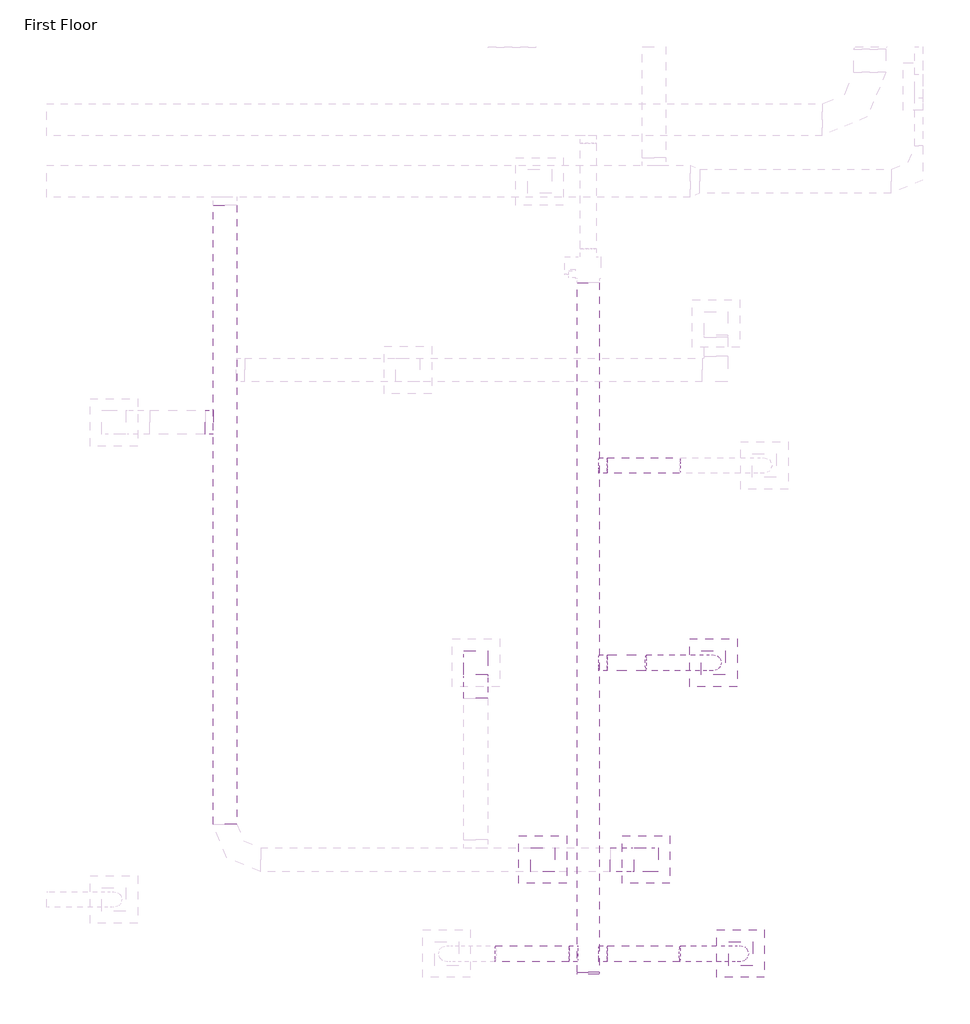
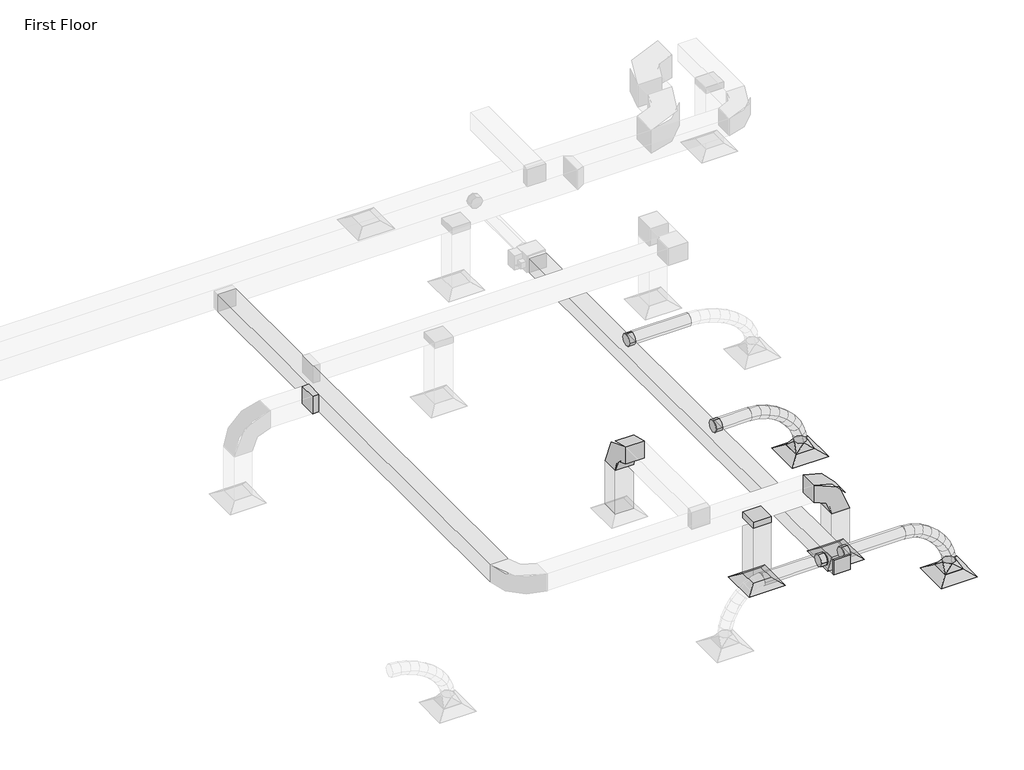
# One storey, part 16 of 61: 11 duct fittings, 11 duct segments, 4 air terminals.
"""IFC4 building model written with IfcOpenShell, lengths in millimetres."""

from ifc_helpers import new_model, si_unit, point, frame, frame_2d, origin, place, context, project, spatial, polyline, circle_curve, ellipse_curve, trimmed, segment, composite_curve, outline, extrude, transform, mapped, element, save
from ifc_brep_helpers import plane_surface, cylinder_surface, advanced_brep
from components import m_exhaust_grill_er_600_x_600_face_300_x_300_connection_ff221211, m_rectangular_elbow_radius_1_5_w_86011e9f, m_rectangular_endcap_standard_7316ac99, m_rectangular_takeoff_standard_c00386d1, m_rectangular_to_round_transition_angle_45_degree_60daae35, m_round_takeoff_standard_8efdd074, m_round_takeoff_standard_45336e8a

model = new_model("IFC4")

# Units and contexts
model_context = context("Model", 3, world=origin())
ifc_project = project(units=[si_unit("LENGTHUNIT", "METRE", prefix="MILLI")], contexts=[model_context])

# Site, building, storey
site = spatial("IfcSite", under=ifc_project)
building = spatial("IfcBuilding", under=site)
storey = spatial("IfcBuildingStorey", under=building, Name="First Floor", Elevation=0.0)

# Air terminals
placement = place(None, origin())
m_exhaust_grill_er_600_x_600_face_300_x_300_connection_shape = m_exhaust_grill_er_600_x_600_face_300_x_300_connection_ff221211(model_context)
element("IfcAirTerminal", 1, ObjectType="M_Return Register : RR-600 x 600 Face 300 x 300 Connection", at=placement, inside=storey, context=model_context, shape_type="MappedRepresentation", body=[
    mapped(m_exhaust_grill_er_600_x_600_face_300_x_300_connection_shape, transform((-23661.4451423, 2220.0547709, 2680.0), x_axis=(1.0, 0.0, 0.0), y_axis=(0.0, 1.0, 0.0), z_axis=(0.0, 0.0, 1.0))),
])
element("IfcAirTerminal", 2, ObjectType="M_Return Register : RR-600 x 600 Face 300 x 300 Connection", at=placement, inside=storey, context=model_context, shape_type="MappedRepresentation", body=[
    mapped(m_exhaust_grill_er_600_x_600_face_300_x_300_connection_shape, transform((-22357.0981327, 2220.0547709, 2680.0), x_axis=(1.0, 0.0, 0.0), y_axis=(0.0, 1.0, 0.0), z_axis=(0.0, 0.0, 1.0))),
])
element("IfcAirTerminal", 3, ObjectType="M_Supply Diffuser : SD-600 x 600 Face 300 x 300 Connection", at=placement, inside=storey, context=model_context, shape_type="MappedRepresentation", body=[
    mapped(m_exhaust_grill_er_600_x_600_face_300_x_300_connection_shape, transform((-21165.0544655, 1034.7343051, 2680.0), x_axis=(1.0, 0.0, 0.0), y_axis=(0.0, 1.0, 0.0), z_axis=(0.0, 0.0, 1.0))),
])
element("IfcAirTerminal", 4, ObjectType="M_Supply Diffuser : SD-600 x 600 Face 300 x 300 Connection", at=placement, inside=storey, context=model_context, shape_type="MappedRepresentation", body=[
    mapped(m_exhaust_grill_er_600_x_600_face_300_x_300_connection_shape, transform((-21510.3227916, 4704.8087341, 2680.0), x_axis=(1.0, 0.0, 0.0), y_axis=(0.0, 1.0, 0.0), z_axis=(0.0, 0.0, 1.0))),
])

# Duct fittings
m_rectangular_elbow_radius_1_5_w_shape = m_rectangular_elbow_radius_1_5_w_86011e9f(model_context)
element("IfcDuctFitting", 5, ObjectType="M_Rectangular Elbow - Radius : 1.5 W", at=placement, inside=storey, context=model_context, shape_type="MappedRepresentation", body=[
    mapped(m_rectangular_elbow_radius_1_5_w_shape, transform((-22357.0981327, 2220.0547709, 4000.0), x_axis=(0.0, 0.0, 1.0), y_axis=(-1.0, 0.0, 0.0), z_axis=(0.0, -1.0, 0.0))),
])
element("IfcDuctFitting", 6, ObjectType="M_Rectangular Elbow - Radius : 1.5 W", at=placement, inside=storey, context=model_context, shape_type="MappedRepresentation", body=[
    mapped(m_rectangular_elbow_radius_1_5_w_shape, transform((-24505.4343838, 4704.8087341, 4000.0), x_axis=(0.0, 0.0, 1.0), y_axis=(0.0, -1.0, 0.0), z_axis=(1.0, 0.0, 0.0))),
])
m_rectangular_endcap_standard_shape = m_rectangular_endcap_standard_7316ac99(model_context)
element("IfcDuctFitting", 7, ObjectType="M_Rectangular Endcap : Standard", at=placement, inside=storey, context=model_context, shape_type="MappedRepresentation", body=[
    mapped(m_rectangular_endcap_standard_shape, transform((-23088.1633517, 798.8813015, 3644.1), x_axis=(0.0, -1.0, 0.0), y_axis=(1.0, 0.0, 0.0), z_axis=(0.0, 0.0, 1.0))),
])
m_rectangular_takeoff_standard_shape = m_rectangular_takeoff_standard_c00386d1(model_context)
element("IfcDuctFitting", 8, ObjectType="M_Rectangular Takeoff : Standard", at=placement, inside=storey, context=model_context, shape_type="MappedRepresentation", body=[
    mapped(m_rectangular_takeoff_standard_shape, transform((-23661.4451423, 2220.0547709, 3850.0), x_axis=(0.0, 0.0, -1.0), y_axis=(0.0, 1.0, 0.0), z_axis=(1.0, 0.0, 0.0))),
])
element("IfcDuctFitting", 9, ObjectType="M_Rectangular Takeoff : Standard", at=placement, inside=storey, context=model_context, shape_type="MappedRepresentation", body=[
    mapped(m_rectangular_takeoff_standard_shape, transform((-27821.2581409, 7737.2789856, 4000.0), x_axis=(-1.0, 0.0, 0.0), y_axis=(0.0, 1.0, 0.0), z_axis=(0.0, 0.0, -1.0))),
])
m_rectangular_to_round_transition_angle_45_degree_shape = m_rectangular_to_round_transition_angle_45_degree_60daae35(model_context)
element("IfcDuctFitting", 10, ObjectType="M_Rectangular to Round Transition - Angle : 45 Degree", at=placement, inside=storey, context=model_context, shape_type="MappedRepresentation", body=[
    mapped(m_rectangular_to_round_transition_angle_45_degree_shape, transform((-21165.0544655, 1034.7343051, 2781.6), x_axis=(0.0, 0.0, 1.0), y_axis=(1.0, 0.0, 0.0), z_axis=(0.0, 1.0, 0.0))),
])
element("IfcDuctFitting", 11, ObjectType="M_Rectangular to Round Transition - Angle : 45 Degree", at=placement, inside=storey, context=model_context, shape_type="MappedRepresentation", body=[
    mapped(m_rectangular_to_round_transition_angle_45_degree_shape, transform((-21510.3227916, 4704.8087341, 2781.6), x_axis=(0.0, 0.0, 1.0), y_axis=(1.0, 0.0, 0.0), z_axis=(0.0, 1.0, 0.0))),
])
m_round_takeoff_standard_shape = m_round_takeoff_standard_8efdd074(model_context)
element("IfcDuctFitting", 12, ObjectType="M_Round Takeoff : Standard", at=placement, inside=storey, context=model_context, shape_type="MappedRepresentation", body=[
    mapped(m_round_takeoff_standard_shape, transform((-23225.6633517, 1034.7343051, 3644.1), x_axis=(-1.0, 0.0, 0.0), y_axis=(0.0, 1.0, 0.0), z_axis=(0.0, 0.0, -1.0))),
])
m_round_takeoff_standard_2_shape = m_round_takeoff_standard_45336e8a(model_context)
element("IfcDuctFitting", 13, ObjectType="M_Round Takeoff : Standard", at=placement, inside=storey, context=model_context, shape_type="MappedRepresentation", body=[
    mapped(m_round_takeoff_standard_2_shape, transform((-22950.6633517, 1034.7343051, 3644.1), x_axis=(1.0, 0.0, 0.0), y_axis=(0.0, -1.0, 0.0), z_axis=(0.0, 0.0, -1.0))),
])
element("IfcDuctFitting", 14, ObjectType="M_Round Takeoff : Standard", at=placement, inside=storey, context=model_context, shape_type="MappedRepresentation", body=[
    mapped(m_round_takeoff_standard_2_shape, transform((-22950.6633517, 4704.8087341, 3644.1), x_axis=(1.0, 0.0, 0.0), y_axis=(0.0, -1.0, 0.0), z_axis=(0.0, 0.0, -1.0))),
])
element("IfcDuctFitting", 15, ObjectType="M_Round Takeoff : Standard", at=placement, inside=storey, context=model_context, shape_type="MappedRepresentation", body=[
    mapped(m_round_takeoff_standard_2_shape, transform((-22950.6633517, 7192.6438141, 3644.1), x_axis=(1.0, 0.0, 0.0), y_axis=(0.0, -1.0, 0.0), z_axis=(0.0, 0.0, -1.0))),
])

# Duct segments
element("IfcDuctSegment", 16, ObjectType="Flex - Round", at=placement, inside=storey, context=model_context, shape_type="AdvancedBrep", body=[
    advanced_brep(
    [(-21926.3984341, 1134.7343051, 3644.1), (-21939.1908692, 1034.7343051, 3544.9216072), (-21926.3984341, 934.7343051, 3644.1), (-21913.605999, 1034.7343051, 3743.2783928), (-21791.9552981, 1134.7343051, 3626.758974), (-21815.7300905, 1034.7343051, 3528.9971305), (-21791.9552981, 934.7343051, 3626.758974), (-21768.1805058, 1034.7343051, 3724.5208174), (-21165.0544655, 1134.7343051, 2902.3106781), (-21065.9677478, 1034.7343051, 2915.7948307), (-21165.0544655, 934.7343051, 2902.3106781), (-21264.1411832, 1034.7343051, 2888.8265256), (-21657.9588903, 1134.7343051, 3578.0219347), (-21700.7063239, 1034.7343051, 3487.1608013), (-21657.9588903, 934.7343051, 3578.0219347), (-21615.2114567, 1034.7343051, 3668.8830681), (-21529.7965808, 1134.7343051, 3502.8179403), (-21587.3421944, 1034.7343051, 3420.6401886), (-21529.7965808, 934.7343051, 3502.8179403), (-21472.2509671, 1034.7343051, 3584.995692), (-21412.8557398, 1134.7343051, 3406.076049), (-21482.5854039, 1034.7343051, 3333.9778219), (-21412.8557398, 934.7343051, 3406.076049), (-21343.1260758, 1034.7343051, 3478.1742762), (-21312.5237376, 1134.7343051, 3292.725319), (-21392.8790514, 1034.7343051, 3232.6314886), (-21312.5237376, 934.7343051, 3292.725319), (-21232.1684238, 1034.7343051, 3352.8191494), (-21234.1879443, 1134.7343051, 3167.6948084), (-21324.0088481, 1034.7343051, 3122.7088552), (-21234.1879443, 934.7343051, 3167.6948084), (-21144.3670405, 1034.7343051, 3212.6807616), (-21183.2357302, 1134.7343051, 3035.9135754), (-21280.7397173, 1034.7343051, 3010.7989114), (-21183.2357302, 934.7343051, 3035.9135754), (-21085.7317432, 1034.7343051, 3061.0282393)],
    [
        (0, 1, circle_curve(frame((-21926.3984341, 1034.7343051, 3644.1), z_axis=(-0.9917839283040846, 0.0, 0.1279243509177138), x_axis=(0.0, 1.0, 0.0)), 100.0)),
        (1, 2, circle_curve(frame((-21926.3984341, 1034.7343051, 3644.1), z_axis=(-0.9917839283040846, 0.0, 0.1279243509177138), x_axis=(0.0, 1.0, 0.0)), 100.0)),
        (2, 3, circle_curve(frame((-21926.3984341, 1034.7343051, 3644.1), z_axis=(-0.9917839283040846, 0.0, 0.1279243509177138), x_axis=(0.0, 1.0, 0.0)), 100.0)),
        (3, 0, circle_curve(frame((-21926.3984341, 1034.7343051, 3644.1), z_axis=(-0.9917839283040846, 0.0, 0.1279243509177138), x_axis=(0.0, 1.0, 0.0)), 100.0)),
        (0, 4),
        (4, 5, ellipse_curve(frame((-21791.9552981, 1034.7343051, 3626.758974), z_axis=(-0.9716792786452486, 0.0, 0.23630357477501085), x_axis=(-0.23630357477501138, 0.0, -0.9716792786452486)), 100.6112259, 100.0)),
        (5, 1),
        (5, 6, ellipse_curve(frame((-21791.9552981, 1034.7343051, 3626.758974), z_axis=(-0.9716792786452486, 0.0, 0.23630357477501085), x_axis=(-0.23630357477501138, 0.0, -0.9716792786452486)), 100.6112259, 100.0)),
        (6, 2),
        (6, 7, ellipse_curve(frame((-21791.9552981, 1034.7343051, 3626.758974), z_axis=(-0.9716792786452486, 0.0, 0.23630357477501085), x_axis=(-0.23630357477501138, 0.0, -0.9716792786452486)), 100.6112259, 100.0)),
        (7, 3),
        (7, 4, ellipse_curve(frame((-21791.9552981, 1034.7343051, 3626.758974), z_axis=(-0.9716792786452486, 0.0, 0.23630357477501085), x_axis=(-0.23630357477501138, 0.0, -0.9716792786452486)), 100.6112259, 100.0)),
        (8, 9, circle_curve(frame((-21165.0544655, 1034.7343051, 2902.3106781), z_axis=(0.13484152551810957, 0.0, -0.9908671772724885), x_axis=(0.0, 1.0, 0.0)), 100.0)),
        (9, 10, circle_curve(frame((-21165.0544655, 1034.7343051, 2902.3106781), z_axis=(0.13484152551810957, 0.0, -0.9908671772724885), x_axis=(0.0, 1.0, 0.0)), 100.0)),
        (10, 11, circle_curve(frame((-21165.0544655, 1034.7343051, 2902.3106781), z_axis=(0.13484152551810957, 0.0, -0.9908671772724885), x_axis=(0.0, 1.0, 0.0)), 100.0)),
        (11, 8, circle_curve(frame((-21165.0544655, 1034.7343051, 2902.3106781), z_axis=(0.13484152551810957, 0.0, -0.9908671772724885), x_axis=(0.0, 1.0, 0.0)), 100.0)),
        (4, 12),
        (12, 13, ellipse_curve(frame((-21657.9588903, 1034.7343051, 3578.0219347), z_axis=(-0.9048599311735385, 0.0, 0.42570941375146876), x_axis=(-0.4257094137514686, 0.0, -0.9048599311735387)), 100.4145838, 100.0)),
        (13, 5),
        (13, 14, ellipse_curve(frame((-21657.9588903, 1034.7343051, 3578.0219347), z_axis=(-0.9048599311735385, 0.0, 0.42570941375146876), x_axis=(-0.4257094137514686, 0.0, -0.9048599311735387)), 100.4145838, 100.0)),
        (14, 6),
        (14, 15, ellipse_curve(frame((-21657.9588903, 1034.7343051, 3578.0219347), z_axis=(-0.9048599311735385, 0.0, 0.42570941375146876), x_axis=(-0.4257094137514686, 0.0, -0.9048599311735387)), 100.4145838, 100.0)),
        (15, 7),
        (15, 12, ellipse_curve(frame((-21657.9588903, 1034.7343051, 3578.0219347), z_axis=(-0.9048599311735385, 0.0, 0.42570941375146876), x_axis=(-0.4257094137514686, 0.0, -0.9048599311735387)), 100.4145838, 100.0)),
        (12, 16),
        (16, 17, ellipse_curve(frame((-21529.7965808, 1034.7343051, 3502.8179403), z_axis=(-0.8191326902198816, 0.0, 0.5736040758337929), x_axis=(-0.5736040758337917, 0.0, -0.8191326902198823)), 100.3228814, 100.0)),
        (17, 13),
        (17, 18, ellipse_curve(frame((-21529.7965808, 1034.7343051, 3502.8179403), z_axis=(-0.8191326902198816, 0.0, 0.5736040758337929), x_axis=(-0.5736040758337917, 0.0, -0.8191326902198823)), 100.3228814, 100.0)),
        (18, 14),
        (18, 19, ellipse_curve(frame((-21529.7965808, 1034.7343051, 3502.8179403), z_axis=(-0.8191326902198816, 0.0, 0.5736040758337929), x_axis=(-0.5736040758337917, 0.0, -0.8191326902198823)), 100.3228814, 100.0)),
        (19, 15),
        (19, 16, ellipse_curve(frame((-21529.7965808, 1034.7343051, 3502.8179403), z_axis=(-0.8191326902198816, 0.0, 0.5736040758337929), x_axis=(-0.5736040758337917, 0.0, -0.8191326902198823)), 100.3228814, 100.0)),
        (16, 20),
        (20, 21, ellipse_curve(frame((-21412.8557398, 1034.7343051, 3406.076049), z_axis=(-0.7188154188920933, 0.0, 0.6952009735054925), x_axis=(-0.6952009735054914, 0.0, -0.7188154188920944)), 100.3014477, 100.0)),
        (21, 17),
        (21, 22, ellipse_curve(frame((-21412.8557398, 1034.7343051, 3406.076049), z_axis=(-0.7188154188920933, 0.0, 0.6952009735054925), x_axis=(-0.6952009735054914, 0.0, -0.7188154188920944)), 100.3014477, 100.0)),
        (22, 18),
        (22, 23, ellipse_curve(frame((-21412.8557398, 1034.7343051, 3406.076049), z_axis=(-0.7188154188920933, 0.0, 0.6952009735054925), x_axis=(-0.6952009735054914, 0.0, -0.7188154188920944)), 100.3014477, 100.0)),
        (23, 19),
        (23, 20, ellipse_curve(frame((-21412.8557398, 1034.7343051, 3406.076049), z_axis=(-0.7188154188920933, 0.0, 0.6952009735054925), x_axis=(-0.6952009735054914, 0.0, -0.7188154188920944)), 100.3014477, 100.0)),
        (20, 24),
        (24, 25, ellipse_curve(frame((-21312.5237376, 1034.7343051, 3292.725319), z_axis=(-0.5988981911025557, 0.0, 0.8008251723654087), x_axis=(-0.8008251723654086, 0.0, -0.598898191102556)), 100.3406444, 100.0)),
        (25, 21),
        (25, 26, ellipse_curve(frame((-21312.5237376, 1034.7343051, 3292.725319), z_axis=(-0.5988981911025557, 0.0, 0.8008251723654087), x_axis=(-0.8008251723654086, 0.0, -0.598898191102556)), 100.3406444, 100.0)),
        (26, 22),
        (26, 27, ellipse_curve(frame((-21312.5237376, 1034.7343051, 3292.725319), z_axis=(-0.5988981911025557, 0.0, 0.8008251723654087), x_axis=(-0.8008251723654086, 0.0, -0.598898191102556)), 100.3406444, 100.0)),
        (27, 23),
        (27, 24, ellipse_curve(frame((-21312.5237376, 1034.7343051, 3292.725319), z_axis=(-0.5988981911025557, 0.0, 0.8008251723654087), x_axis=(-0.8008251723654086, 0.0, -0.598898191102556)), 100.3406444, 100.0)),
        (24, 28),
        (28, 29, ellipse_curve(frame((-21234.1879443, 1034.7343051, 3167.6948084), z_axis=(-0.4478147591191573, 0.0, 0.8941263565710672), x_axis=(-0.8941263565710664, 0.0, -0.44781475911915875)), 100.4566112, 100.0)),
        (29, 25),
        (29, 30, ellipse_curve(frame((-21234.1879443, 1034.7343051, 3167.6948084), z_axis=(-0.4478147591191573, 0.0, 0.8941263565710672), x_axis=(-0.8941263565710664, 0.0, -0.44781475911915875)), 100.4566112, 100.0)),
        (30, 26),
        (30, 31, ellipse_curve(frame((-21234.1879443, 1034.7343051, 3167.6948084), z_axis=(-0.4478147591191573, 0.0, 0.8941263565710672), x_axis=(-0.8941263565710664, 0.0, -0.44781475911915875)), 100.4566112, 100.0)),
        (31, 27),
        (31, 28, ellipse_curve(frame((-21234.1879443, 1034.7343051, 3167.6948084), z_axis=(-0.4478147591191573, 0.0, 0.8941263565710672), x_axis=(-0.8941263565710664, 0.0, -0.44781475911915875)), 100.4566112, 100.0)),
        (28, 32),
        (32, 33, ellipse_curve(frame((-21183.2357302, 1034.7343051, 3035.9135754), z_axis=(-0.24943424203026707, 0.0, 0.968391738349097), x_axis=(-0.9683917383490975, 0.0, -0.24943424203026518)), 100.6865127, 100.0)),
        (33, 29),
        (33, 34, ellipse_curve(frame((-21183.2357302, 1034.7343051, 3035.9135754), z_axis=(-0.24943424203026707, 0.0, 0.968391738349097), x_axis=(-0.9683917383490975, 0.0, -0.24943424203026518)), 100.6865127, 100.0)),
        (34, 30),
        (34, 35, ellipse_curve(frame((-21183.2357302, 1034.7343051, 3035.9135754), z_axis=(-0.24943424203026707, 0.0, 0.968391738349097), x_axis=(-0.9683917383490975, 0.0, -0.24943424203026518)), 100.6865127, 100.0)),
        (35, 31),
        (35, 32, ellipse_curve(frame((-21183.2357302, 1034.7343051, 3035.9135754), z_axis=(-0.24943424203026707, 0.0, 0.968391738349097), x_axis=(-0.9683917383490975, 0.0, -0.24943424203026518)), 100.6865127, 100.0)),
        (32, 8),
        (11, 33),
        (10, 34),
        (9, 35),
    ],
    [
        plane_surface(frame((-21926.3984341, 1134.7343051, 3644.1), z_axis=(-0.9917839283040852, 0.0, 0.12792435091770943), x_axis=(0.12792435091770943, 0.0, 0.9917839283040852))),
        cylinder_surface(frame((-21926.3984341, 1034.7343051, 3644.1), z_axis=(-0.9917839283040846, 0.0, 0.1279243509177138), x_axis=(0.0, 1.0, 0.0)), 100.0),
        plane_surface(frame((-21165.0544655, 1134.7343051, 2902.3106781), z_axis=(0.1348415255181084, 0.0, -0.9908671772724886), x_axis=(0.9908671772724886, 0.0, 0.1348415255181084))),
        cylinder_surface(frame((-21791.9552981, 1034.7343051, 3626.758974), z_axis=(-0.9397684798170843, 0.0, 0.34181165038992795), x_axis=(0.0, 1.0, 0.0)), 100.0),
        cylinder_surface(frame((-21657.9588903, 1034.7343051, 3578.0219347), z_axis=(-0.8624795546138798, 0.0, 0.5060919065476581), x_axis=(0.0, 1.0, 0.0)), 100.0),
        cylinder_surface(frame((-21529.7965808, 1034.7343051, 3502.8179403), z_axis=(-0.7705131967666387, 0.0, 0.637424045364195), x_axis=(0.0, 1.0, 0.0)), 100.0),
        cylinder_surface(frame((-21412.8557398, 1034.7343051, 3406.076049), z_axis=(-0.662796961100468, 0.0, 0.7487991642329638), x_axis=(0.0, 1.0, 0.0)), 100.0),
        cylinder_surface(frame((-21312.5237376, 1034.7343051, 3292.725319), z_axis=(-0.5309330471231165, 0.0, 0.8474137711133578), x_axis=(0.0, 1.0, 0.0)), 100.0),
        cylinder_surface(frame((-21234.1879443, 1034.7343051, 3167.6948084), z_axis=(-0.3606255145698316, 0.0, 0.9327106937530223), x_axis=(0.0, 1.0, 0.0)), 100.0),
        cylinder_surface(frame((-21183.2357302, 1034.7343051, 3035.9135754), z_axis=(-0.13484152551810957, 0.0, 0.9908671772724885), x_axis=(0.0, 1.0, 0.0)), 100.0),
    ],
    [
        (0, [[1, 2, 3, 4]]),
        (1, [[-1, 5, 6, 7]]),
        (1, [[-2, -7, 8, 9]]),
        (1, [[-3, -9, 10, 11]]),
        (1, [[-4, -11, 12, -5]]),
        (2, [[13, 14, 15, 16]]),
        (3, [[-6, 17, 18, 19]]),
        (3, [[-8, -19, 20, 21]]),
        (3, [[-10, -21, 22, 23]]),
        (3, [[-12, -23, 24, -17]]),
        (4, [[-18, 25, 26, 27]]),
        (4, [[-20, -27, 28, 29]]),
        (4, [[-22, -29, 30, 31]]),
        (4, [[-24, -31, 32, -25]]),
        (5, [[-26, 33, 34, 35]]),
        (5, [[-28, -35, 36, 37]]),
        (5, [[-30, -37, 38, 39]]),
        (5, [[-32, -39, 40, -33]]),
        (6, [[-34, 41, 42, 43]]),
        (6, [[-36, -43, 44, 45]]),
        (6, [[-38, -45, 46, 47]]),
        (6, [[-40, -47, 48, -41]]),
        (7, [[-42, 49, 50, 51]]),
        (7, [[-44, -51, 52, 53]]),
        (7, [[-46, -53, 54, 55]]),
        (7, [[-48, -55, 56, -49]]),
        (8, [[-50, 57, 58, 59]]),
        (8, [[-52, -59, 60, 61]]),
        (8, [[-54, -61, 62, 63]]),
        (8, [[-56, -63, 64, -57]]),
        (9, [[-58, 65, -16, 66]]),
        (9, [[-60, -66, -15, 67]]),
        (9, [[-62, -67, -14, 68]]),
        (9, [[-64, -68, -13, -65]]),
    ],
),
])
element("IfcDuctSegment", 17, ObjectType="Flex - Round", at=placement, inside=storey, context=model_context, shape_type="AdvancedBrep", body=[
    advanced_brep(
    [(-22357.0981327, 4804.8087341, 3644.1), (-22368.4608534, 4704.8087341, 3544.7476544), (-22357.0981327, 4604.8087341, 3644.1), (-22345.735412, 4704.8087341, 3743.4523456), (-22212.9768724, 4804.8087341, 3627.6171518), (-22234.0289228, 4704.8087341, 3529.3729547), (-22212.9768724, 4604.8087341, 3627.6171518), (-22191.924822, 4704.8087341, 3725.861349), (-21510.3227916, 4804.8087341, 2902.3106781), (-21411.4346125, 4704.8087341, 2917.1810525), (-21510.3227916, 4604.8087341, 2902.3106781), (-21609.2109707, 4704.8087341, 2887.4403037), (-22066.4829646, 4804.8087341, 3580.9642588), (-22104.6524119, 4704.8087341, 3488.1713196), (-22066.4829646, 4604.8087341, 3580.9642588), (-22028.3135174, 4704.8087341, 3673.757198), (-21924.2704964, 4804.8087341, 3508.334798), (-21976.5037784, 4704.8087341, 3422.7244128), (-21924.2704964, 4604.8087341, 3508.334798), (-21872.0372144, 4704.8087341, 3593.9451831), (-21792.9935546, 4804.8087341, 3413.9222466), (-21857.6622727, 4704.8087341, 3337.2552542), (-21792.9935546, 4604.8087341, 3413.9222466), (-21728.3248364, 4704.8087341, 3490.589239), (-21679.3062262, 4804.8087341, 3301.9200818), (-21755.6745497, 4704.8087341, 3236.7792739), (-21679.3062262, 4604.8087341, 3301.9200818), (-21602.9379028, 4704.8087341, 3367.0608896), (-21589.8625983, 4804.8087341, 3176.5217806), (-21677.3742001, 4704.8087341, 3127.0036416), (-21589.8625983, 4604.8087341, 3176.5217806), (-21502.3509964, 4704.8087341, 3226.0399197), (-21531.3167577, 4804.8087341, 3041.9208204), (-21628.2531251, 4704.8087341, 3014.0708728), (-21531.3167577, 4604.8087341, 3041.9208204), (-21434.3803904, 4704.8087341, 3069.7707679)],
    [
        (0, 1, circle_curve(frame((-22357.0981327, 4704.8087341, 3644.1), z_axis=(-0.9935234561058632, 0.0, 0.11362720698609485), x_axis=(0.0, 1.0, 0.0)), 100.0)),
        (1, 2, circle_curve(frame((-22357.0981327, 4704.8087341, 3644.1), z_axis=(-0.9935234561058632, 0.0, 0.11362720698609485), x_axis=(0.0, 1.0, 0.0)), 100.0)),
        (2, 3, circle_curve(frame((-22357.0981327, 4704.8087341, 3644.1), z_axis=(-0.9935234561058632, 0.0, 0.11362720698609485), x_axis=(0.0, 1.0, 0.0)), 100.0)),
        (3, 0, circle_curve(frame((-22357.0981327, 4704.8087341, 3644.1), z_axis=(-0.9935234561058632, 0.0, 0.11362720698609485), x_axis=(0.0, 1.0, 0.0)), 100.0)),
        (0, 4),
        (4, 5, ellipse_curve(frame((-22212.9768724, 4704.8087341, 3627.6171518), z_axis=(-0.977802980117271, 0.0, 0.20952644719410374), x_axis=(-0.20952644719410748, 0.0, -0.9778029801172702)), 100.4744301, 100.0)),
        (5, 1),
        (5, 6, ellipse_curve(frame((-22212.9768724, 4704.8087341, 3627.6171518), z_axis=(-0.977802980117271, 0.0, 0.20952644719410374), x_axis=(-0.20952644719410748, 0.0, -0.9778029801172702)), 100.4744301, 100.0)),
        (6, 2),
        (6, 7, ellipse_curve(frame((-22212.9768724, 4704.8087341, 3627.6171518), z_axis=(-0.977802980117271, 0.0, 0.20952644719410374), x_axis=(-0.20952644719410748, 0.0, -0.9778029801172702)), 100.4744301, 100.0)),
        (7, 3),
        (7, 4, ellipse_curve(frame((-22212.9768724, 4704.8087341, 3627.6171518), z_axis=(-0.977802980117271, 0.0, 0.20952644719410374), x_axis=(-0.20952644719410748, 0.0, -0.9778029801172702)), 100.4744301, 100.0)),
        (8, 9, circle_curve(frame((-21510.3227916, 4704.8087341, 2902.3106781), z_axis=(0.14870374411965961, 0.0, -0.988881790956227), x_axis=(0.0, 1.0, 0.0)), 100.0)),
        (9, 10, circle_curve(frame((-21510.3227916, 4704.8087341, 2902.3106781), z_axis=(0.14870374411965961, 0.0, -0.988881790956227), x_axis=(0.0, 1.0, 0.0)), 100.0)),
        (10, 11, circle_curve(frame((-21510.3227916, 4704.8087341, 2902.3106781), z_axis=(0.14870374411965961, 0.0, -0.988881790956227), x_axis=(0.0, 1.0, 0.0)), 100.0)),
        (11, 8, circle_curve(frame((-21510.3227916, 4704.8087341, 2902.3106781), z_axis=(0.14870374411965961, 0.0, -0.988881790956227), x_axis=(0.0, 1.0, 0.0)), 100.0)),
        (4, 12),
        (12, 13, ellipse_curve(frame((-22066.4829646, 4704.8087341, 3580.9642588), z_axis=(-0.9248163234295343, 0.0, 0.38041394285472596), x_axis=(-0.3804139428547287, 0.0, -0.9248163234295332)), 100.3366148, 100.0)),
        (13, 5),
        (13, 14, ellipse_curve(frame((-22066.4829646, 4704.8087341, 3580.9642588), z_axis=(-0.9248163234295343, 0.0, 0.38041394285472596), x_axis=(-0.3804139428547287, 0.0, -0.9248163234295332)), 100.3366148, 100.0)),
        (14, 6),
        (14, 15, ellipse_curve(frame((-22066.4829646, 4704.8087341, 3580.9642588), z_axis=(-0.9248163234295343, 0.0, 0.38041394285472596), x_axis=(-0.3804139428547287, 0.0, -0.9248163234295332)), 100.3366148, 100.0)),
        (15, 7),
        (15, 12, ellipse_curve(frame((-22066.4829646, 4704.8087341, 3580.9642588), z_axis=(-0.9248163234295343, 0.0, 0.38041394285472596), x_axis=(-0.3804139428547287, 0.0, -0.9248163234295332)), 100.3366148, 100.0)),
        (12, 16),
        (16, 17, ellipse_curve(frame((-21924.2704964, 4704.8087341, 3508.334798), z_axis=(-0.8536550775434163, 0.0, 0.5208387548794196), x_axis=(-0.5208387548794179, 0.0, -0.8536550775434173)), 100.2868575, 100.0)),
        (17, 13),
        (17, 18, ellipse_curve(frame((-21924.2704964, 4704.8087341, 3508.334798), z_axis=(-0.8536550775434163, 0.0, 0.5208387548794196), x_axis=(-0.5208387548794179, 0.0, -0.8536550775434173)), 100.2868575, 100.0)),
        (18, 14),
        (18, 19, ellipse_curve(frame((-21924.2704964, 4704.8087341, 3508.334798), z_axis=(-0.8536550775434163, 0.0, 0.5208387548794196), x_axis=(-0.5208387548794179, 0.0, -0.8536550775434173)), 100.2868575, 100.0)),
        (19, 15),
        (19, 16, ellipse_curve(frame((-21924.2704964, 4704.8087341, 3508.334798), z_axis=(-0.8536550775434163, 0.0, 0.5208387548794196), x_axis=(-0.5208387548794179, 0.0, -0.8536550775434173)), 100.2868575, 100.0)),
        (16, 20),
        (20, 21, ellipse_curve(frame((-21792.9935546, 4704.8087341, 3413.9222466), z_axis=(-0.7643851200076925, 0.0, 0.644759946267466), x_axis=(-0.6447599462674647, 0.0, -0.7643851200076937)), 100.2989074, 100.0)),
        (21, 17),
        (21, 22, ellipse_curve(frame((-21792.9935546, 4704.8087341, 3413.9222466), z_axis=(-0.7643851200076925, 0.0, 0.644759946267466), x_axis=(-0.6447599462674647, 0.0, -0.7643851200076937)), 100.2989074, 100.0)),
        (22, 18),
        (22, 23, ellipse_curve(frame((-21792.9935546, 4704.8087341, 3413.9222466), z_axis=(-0.7643851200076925, 0.0, 0.644759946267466), x_axis=(-0.6447599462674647, 0.0, -0.7643851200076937)), 100.2989074, 100.0)),
        (23, 19),
        (23, 20, ellipse_curve(frame((-21792.9935546, 4704.8087341, 3413.9222466), z_axis=(-0.7643851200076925, 0.0, 0.644759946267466), x_axis=(-0.6447599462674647, 0.0, -0.7643851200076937)), 100.2989074, 100.0)),
        (20, 24),
        (24, 25, ellipse_curve(frame((-21679.3062262, 4704.8087341, 3301.9200818), z_axis=(-0.6489646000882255, 0.0, 0.7608186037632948), x_axis=(-0.7608186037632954, 0.0, -0.6489646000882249)), 100.3765196, 100.0)),
        (25, 21),
        (25, 26, ellipse_curve(frame((-21679.3062262, 4704.8087341, 3301.9200818), z_axis=(-0.6489646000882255, 0.0, 0.7608186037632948), x_axis=(-0.7608186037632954, 0.0, -0.6489646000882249)), 100.3765196, 100.0)),
        (26, 22),
        (26, 27, ellipse_curve(frame((-21679.3062262, 4704.8087341, 3301.9200818), z_axis=(-0.6489646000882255, 0.0, 0.7608186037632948), x_axis=(-0.7608186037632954, 0.0, -0.6489646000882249)), 100.3765196, 100.0)),
        (27, 23),
        (27, 24, ellipse_curve(frame((-21679.3062262, 4704.8087341, 3301.9200818), z_axis=(-0.6489646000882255, 0.0, 0.7608186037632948), x_axis=(-0.7608186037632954, 0.0, -0.6489646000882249)), 100.3765196, 100.0)),
        (24, 28),
        (28, 29, ellipse_curve(frame((-21589.8625983, 4704.8087341, 3176.5217806), z_axis=(-0.492472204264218, 0.0, 0.8703281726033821), x_axis=(-0.870328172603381, 0.0, -0.49247220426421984)), 100.5501196, 100.0)),
        (29, 25),
        (29, 30, ellipse_curve(frame((-21589.8625983, 4704.8087341, 3176.5217806), z_axis=(-0.492472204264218, 0.0, 0.8703281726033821), x_axis=(-0.870328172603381, 0.0, -0.49247220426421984)), 100.5501196, 100.0)),
        (30, 26),
        (30, 31, ellipse_curve(frame((-21589.8625983, 4704.8087341, 3176.5217806), z_axis=(-0.492472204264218, 0.0, 0.8703281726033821), x_axis=(-0.870328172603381, 0.0, -0.49247220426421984)), 100.5501196, 100.0)),
        (31, 27),
        (31, 28, ellipse_curve(frame((-21589.8625983, 4704.8087341, 3176.5217806), z_axis=(-0.492472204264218, 0.0, 0.8703281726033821), x_axis=(-0.870328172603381, 0.0, -0.49247220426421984)), 100.5501196, 100.0)),
        (28, 32),
        (32, 33, ellipse_curve(frame((-21531.3167577, 4704.8087341, 3041.9208204), z_axis=(-0.27613105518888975, 0.0, 0.9611199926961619), x_axis=(-0.961119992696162, 0.0, -0.27613105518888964)), 100.8577161, 100.0)),
        (33, 29),
        (33, 34, ellipse_curve(frame((-21531.3167577, 4704.8087341, 3041.9208204), z_axis=(-0.27613105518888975, 0.0, 0.9611199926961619), x_axis=(-0.961119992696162, 0.0, -0.27613105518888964)), 100.8577161, 100.0)),
        (34, 30),
        (34, 35, ellipse_curve(frame((-21531.3167577, 4704.8087341, 3041.9208204), z_axis=(-0.27613105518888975, 0.0, 0.9611199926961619), x_axis=(-0.961119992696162, 0.0, -0.27613105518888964)), 100.8577161, 100.0)),
        (35, 31),
        (35, 32, ellipse_curve(frame((-21531.3167577, 4704.8087341, 3041.9208204), z_axis=(-0.27613105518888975, 0.0, 0.9611199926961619), x_axis=(-0.961119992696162, 0.0, -0.27613105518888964)), 100.8577161, 100.0)),
        (32, 8),
        (11, 33),
        (10, 34),
        (9, 35),
    ],
    [
        plane_surface(frame((-22357.0981327, 4804.8087341, 3644.1), z_axis=(-0.9935234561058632, 0.0, 0.113627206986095), x_axis=(0.113627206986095, 0.0, 0.9935234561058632))),
        cylinder_surface(frame((-22357.0981327, 4704.8087341, 3644.1), z_axis=(-0.9935234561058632, 0.0, 0.11362720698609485), x_axis=(0.0, 1.0, 0.0)), 100.0),
        plane_surface(frame((-21510.3227916, 4804.8087341, 2902.3106781), z_axis=(0.14870374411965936, 0.0, -0.9888817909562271), x_axis=(0.9888817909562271, 0.0, 0.14870374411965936))),
        cylinder_surface(frame((-22212.9768724, 4704.8087341, 3627.6171518), z_axis=(-0.952848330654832, 0.0, 0.30344696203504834), x_axis=(0.0, 1.0, 0.0)), 100.0),
        cylinder_surface(frame((-22066.4829646, 4704.8087341, 3580.9642588), z_axis=(-0.8905790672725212, 0.0, 0.4548284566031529), x_axis=(0.0, 1.0, 0.0)), 100.0),
        cylinder_surface(frame((-21924.2704964, 4704.8087341, 3508.334798), z_axis=(-0.8118475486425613, 0.0, 0.5838694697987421), x_axis=(0.0, 1.0, 0.0)), 100.0),
        cylinder_surface(frame((-21792.9935546, 4704.8087341, 3413.9222466), z_axis=(-0.712366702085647, 0.0, 0.7018074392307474), x_axis=(0.0, 1.0, 0.0)), 100.0),
        cylinder_surface(frame((-21679.3062262, 4704.8087341, 3301.9200818), z_axis=(-0.5806938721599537, 0.0, 0.8141219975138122), x_axis=(0.0, 1.0, 0.0)), 100.0),
        cylinder_surface(frame((-21589.8625983, 4704.8087341, 3176.5217806), z_axis=(-0.3988618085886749, 0.0, 0.9170110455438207), x_axis=(0.0, 1.0, 0.0)), 100.0),
        cylinder_surface(frame((-21531.3167577, 4704.8087341, 3041.9208204), z_axis=(-0.14870374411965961, 0.0, 0.988881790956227), x_axis=(0.0, 1.0, 0.0)), 100.0),
    ],
    [
        (0, [[1, 2, 3, 4]]),
        (1, [[-1, 5, 6, 7]]),
        (1, [[-2, -7, 8, 9]]),
        (1, [[-3, -9, 10, 11]]),
        (1, [[-4, -11, 12, -5]]),
        (2, [[13, 14, 15, 16]]),
        (3, [[-6, 17, 18, 19]]),
        (3, [[-8, -19, 20, 21]]),
        (3, [[-10, -21, 22, 23]]),
        (3, [[-12, -23, 24, -17]]),
        (4, [[-18, 25, 26, 27]]),
        (4, [[-20, -27, 28, 29]]),
        (4, [[-22, -29, 30, 31]]),
        (4, [[-24, -31, 32, -25]]),
        (5, [[-26, 33, 34, 35]]),
        (5, [[-28, -35, 36, 37]]),
        (5, [[-30, -37, 38, 39]]),
        (5, [[-32, -39, 40, -33]]),
        (6, [[-34, 41, 42, 43]]),
        (6, [[-36, -43, 44, 45]]),
        (6, [[-38, -45, 46, 47]]),
        (6, [[-40, -47, 48, -41]]),
        (7, [[-42, 49, 50, 51]]),
        (7, [[-44, -51, 52, 53]]),
        (7, [[-46, -53, 54, 55]]),
        (7, [[-48, -55, 56, -49]]),
        (8, [[-50, 57, 58, 59]]),
        (8, [[-52, -59, 60, 61]]),
        (8, [[-54, -61, 62, 63]]),
        (8, [[-56, -63, 64, -57]]),
        (9, [[-58, 65, -16, 66]]),
        (9, [[-60, -66, -15, 67]]),
        (9, [[-62, -67, -14, 68]]),
        (9, [[-64, -68, -13, -65]]),
    ],
),
])
element("IfcDuctSegment", 18, ObjectType="Radius Elbows / Taps", at=placement, inside=storey, context=model_context, shape_type="SweptSolid", body=[
    extrude(outline(polyline([(-23225.6633517, 9498.8813015), (-22950.6633517, 9498.8813015), (-22950.6633517, 798.8813015), (-23225.6633517, 798.8813015), (-23225.6633517, 9498.8813015)])), frame((0.0, 0.0, 3519.1), z_axis=(0.0, 0.0, 1.0), x_axis=(1.0, 0.0, 0.0)), (0.0, 0.0, 1.0), 250.0),
])
element("IfcDuctSegment", 19, ObjectType="Radius Elbows / Taps", at=placement, inside=storey, context=model_context, shape_type="SweptSolid", body=[
    extrude(outline(polyline([(-22507.0981327, 2070.0547709), (-22507.0981327, 2370.0547709), (-22207.0981327, 2370.0547709), (-22207.0981327, 2070.0547709), (-22507.0981327, 2070.0547709)])), frame((0.0, 0.0, 2781.6), z_axis=(0.0, 0.0, 1.0), x_axis=(1.0, 0.0, 0.0)), (0.0, 0.0, 1.0), 768.4),
])
element("IfcDuctSegment", 20, ObjectType="Radius Elbows / Taps", at=placement, inside=storey, context=model_context, shape_type="SweptSolid", body=[
    extrude(outline(polyline([(-23811.4451423, 2070.0547709), (-23811.4451423, 2370.0547709), (-23511.4451423, 2370.0547709), (-23511.4451423, 2070.0547709), (-23811.4451423, 2070.0547709)])), frame((0.0, 0.0, 2781.6), z_axis=(0.0, 0.0, 1.0), x_axis=(1.0, 0.0, 0.0)), (0.0, 0.0, 1.0), 968.4),
])
element("IfcDuctSegment", 21, ObjectType="Radius Elbows / Taps", at=placement, inside=storey, context=model_context, shape_type="SweptSolid", body=[
    extrude(outline(polyline([(-27521.2581409, 2670.0547709), (-27821.2581409, 2670.0547709), (-27821.2581409, 10477.8718477), (-27521.2581409, 10477.8718477), (-27521.2581409, 2670.0547709)])), frame((0.0, 0.0, 3850.0), z_axis=(0.0, 0.0, 1.0), x_axis=(1.0, 0.0, 0.0)), (0.0, 0.0, 1.0), 300.0),
])
element("IfcDuctSegment", 22, ObjectType="Radius Elbows / Taps", at=placement, inside=storey, context=model_context, shape_type="SweptSolid", body=[
    extrude(outline(polyline([(-24355.4343838, 4554.8087341), (-24655.4343838, 4554.8087341), (-24655.4343838, 4854.8087341), (-24355.4343838, 4854.8087341), (-24355.4343838, 4554.8087341)])), frame((0.0, 0.0, 2781.6), z_axis=(0.0, 0.0, 1.0), x_axis=(1.0, 0.0, 0.0)), (0.0, 0.0, 1.0), 768.4),
])
element("IfcDuctSegment", 23, ObjectType="Taps", at=placement, inside=storey, context=model_context, shape_type="SweptSolid", body=[
    extrude(outline(composite_curve([segment(trimmed(circle_curve(frame_2d((1034.7343051, 3644.1)), 100.0), [point((1134.7343051, 3644.1))], [point((1034.7343051, 3544.1))], False, "CARTESIAN"), True, "CONTINUOUS"), segment(trimmed(circle_curve(frame_2d((1034.7343051, 3644.1)), 100.0), [point((1034.7343051, 3544.1))], [point((934.7343051, 3644.1))], False, "CARTESIAN"), True, "CONTINUOUS"), segment(trimmed(circle_curve(frame_2d((1034.7343051, 3644.1)), 100.0), [point((934.7343051, 3644.1))], [point((1034.7343051, 3744.1))], False, "CARTESIAN"), True, "CONTINUOUS"), segment(trimmed(circle_curve(frame_2d((1034.7343051, 3644.1)), 100.0), [point((1034.7343051, 3744.1))], [point((1134.7343051, 3644.1))], False, "CARTESIAN"), True, "CONTINUOUS")], self_intersect=False)), frame((-24263.8984341, 0.0, 0.0), z_axis=(1.0, 0.0, 0.0), x_axis=(0.0, 1.0, 0.0)), (0.0, 0.0, 1.0), 938.2350824),
])
element("IfcDuctSegment", 24, ObjectType="Taps", at=placement, inside=storey, context=model_context, shape_type="SweptSolid", body=[
    extrude(outline(composite_curve([segment(trimmed(circle_curve(frame_2d((1034.7343051, 3644.1)), 100.0), [point((934.7343051, 3644.1))], [point((1034.7343051, 3744.1))], False, "CARTESIAN"), True, "CONTINUOUS"), segment(trimmed(circle_curve(frame_2d((1034.7343051, 3644.1)), 100.0), [point((1034.7343051, 3744.1))], [point((1134.7343051, 3644.1))], False, "CARTESIAN"), True, "CONTINUOUS"), segment(trimmed(circle_curve(frame_2d((1034.7343051, 3644.1)), 100.0), [point((1134.7343051, 3644.1))], [point((1034.7343051, 3544.1))], False, "CARTESIAN"), True, "CONTINUOUS"), segment(trimmed(circle_curve(frame_2d((1034.7343051, 3644.1)), 100.0), [point((1034.7343051, 3544.1))], [point((934.7343051, 3644.1))], False, "CARTESIAN"), True, "CONTINUOUS")], self_intersect=False)), frame((-22850.6633517, 0.0, 0.0), z_axis=(1.0, 0.0, 0.0), x_axis=(0.0, 1.0, 0.0)), (0.0, 0.0, 1.0), 924.2649176),
])
element("IfcDuctSegment", 25, ObjectType="Taps", at=placement, inside=storey, context=model_context, shape_type="SweptSolid", body=[
    extrude(outline(composite_curve([segment(trimmed(circle_curve(frame_2d((4704.8087341, 3644.1)), 100.0), [point((4604.8087341, 3644.1))], [point((4704.8087341, 3744.1))], False, "CARTESIAN"), True, "CONTINUOUS"), segment(trimmed(circle_curve(frame_2d((4704.8087341, 3644.1)), 100.0), [point((4704.8087341, 3744.1))], [point((4804.8087341, 3644.1))], False, "CARTESIAN"), True, "CONTINUOUS"), segment(trimmed(circle_curve(frame_2d((4704.8087341, 3644.1)), 100.0), [point((4804.8087341, 3644.1))], [point((4704.8087341, 3544.1))], False, "CARTESIAN"), True, "CONTINUOUS"), segment(trimmed(circle_curve(frame_2d((4704.8087341, 3644.1)), 100.0), [point((4704.8087341, 3544.1))], [point((4604.8087341, 3644.1))], False, "CARTESIAN"), True, "CONTINUOUS")], self_intersect=False)), frame((-22850.6633517, 0.0, 0.0), z_axis=(1.0, 0.0, 0.0), x_axis=(0.0, 1.0, 0.0)), (0.0, 0.0, 1.0), 493.5652191),
])
element("IfcDuctSegment", 26, ObjectType="Taps", at=placement, inside=storey, context=model_context, shape_type="SweptSolid", body=[
    extrude(outline(composite_curve([segment(trimmed(circle_curve(frame_2d((7192.6438141, 3644.1)), 100.0), [point((7092.6438141, 3644.1))], [point((7192.6438141, 3744.1))], False, "CARTESIAN"), True, "CONTINUOUS"), segment(trimmed(circle_curve(frame_2d((7192.6438141, 3644.1)), 100.0), [point((7192.6438141, 3744.1))], [point((7292.6438141, 3644.1))], False, "CARTESIAN"), True, "CONTINUOUS"), segment(trimmed(circle_curve(frame_2d((7192.6438141, 3644.1)), 100.0), [point((7292.6438141, 3644.1))], [point((7192.6438141, 3544.1))], False, "CARTESIAN"), True, "CONTINUOUS"), segment(trimmed(circle_curve(frame_2d((7192.6438141, 3644.1)), 100.0), [point((7192.6438141, 3544.1))], [point((7092.6438141, 3644.1))], False, "CARTESIAN"), True, "CONTINUOUS")], self_intersect=False)), frame((-22850.6633517, 0.0, 0.0), z_axis=(1.0, 0.0, 0.0), x_axis=(0.0, 1.0, 0.0)), (0.0, 0.0, 1.0), 924.2649176),
])

save(model, "model.ifc")
